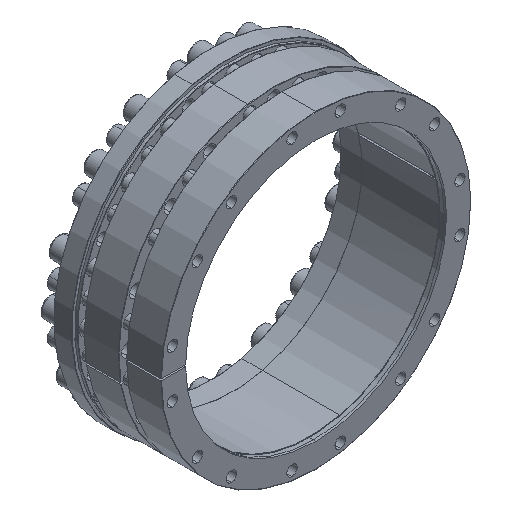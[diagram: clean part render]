
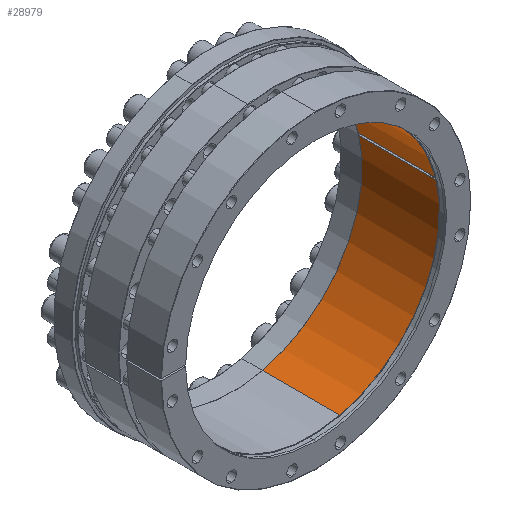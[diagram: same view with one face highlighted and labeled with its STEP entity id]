
A CAD part, isometric view. The second image highlights one B-rep face of the part: STEP entity #28979.
In plain terms, the highlighted cylindrical face has radius 220 mm (diameter 440 mm), a partial arc.
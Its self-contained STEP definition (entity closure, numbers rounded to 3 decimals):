
#466 = CARTESIAN_POINT ( 'NONE',  ( 214.491, 11.004, 48.924 ) ) ;
#1159 = CARTESIAN_POINT ( 'NONE',  ( -51.358, 11.004, 213.921 ) ) ;
#1464 = CIRCLE ( 'NONE', #34496, 220. ) ;
#1935 = EDGE_CURVE ( 'NONE', #6606, #2238, #23847, .T. ) ;
#2023 = EDGE_CURVE ( 'NONE', #2238, #6079, #32669, .T. ) ;
#2238 = VERTEX_POINT ( 'NONE', #25324 ) ;
#2874 = CARTESIAN_POINT ( 'NONE',  ( 214.491, 141.504, 48.924 ) ) ;
#3444 = CARTESIAN_POINT ( 'NONE',  ( 0., 11.004, 0. ) ) ;
#3523 = DIRECTION ( 'NONE',  ( 0.233, 0., -0.972 ) ) ;
#3984 = DIRECTION ( 'NONE',  ( 0., -1., 0. ) ) ;
#4357 = EDGE_CURVE ( 'NONE', #40743, #19009, #17437, .T. ) ;
#6069 = CARTESIAN_POINT ( 'NONE',  ( 0., 11.004, 0. ) ) ;
#6079 = VERTEX_POINT ( 'NONE', #37050 ) ;
#6606 = VERTEX_POINT ( 'NONE', #48731 ) ;
#6693 = AXIS2_PLACEMENT_3D ( 'NONE', #8407, #34714, #12178 ) ;
#7908 = CARTESIAN_POINT ( 'NONE',  ( 213.324, 11.004, 53.786 ) ) ;
#8029 = CARTESIAN_POINT ( 'NONE',  ( 213.324, 141.504, 53.786 ) ) ;
#8407 = CARTESIAN_POINT ( 'NONE',  ( 0., 142.004, 0. ) ) ;
#9505 = VERTEX_POINT ( 'NONE', #2874 ) ;
#9796 = VECTOR ( 'NONE', #42337, 1000. ) ;
#9858 = DIRECTION ( 'NONE',  ( 0.233, 0., -0.972 ) ) ;
#11388 = CIRCLE ( 'NONE', #36785, 220. ) ;
#12178 = DIRECTION ( 'NONE',  ( 0.233, 0., -0.972 ) ) ;
#12633 = VECTOR ( 'NONE', #27477, 1000. ) ;
#14096 = EDGE_CURVE ( 'NONE', #19009, #6079, #1464, .T. ) ;
#14475 = EDGE_CURVE ( 'NONE', #44742, #28362, #11388, .T. ) ;
#14519 = CARTESIAN_POINT ( 'NONE',  ( 214.491, 11.004, 48.924 ) ) ;
#14967 = DIRECTION ( 'NONE',  ( 0., -1., 0. ) ) ;
#15056 = ORIENTED_EDGE ( 'NONE', *, *, #36700, .T. ) ;
#16034 = EDGE_LOOP ( 'NONE', ( #19385, #44226, #16568, #34153, #15056, #33561, #36732, #26580 ) ) ;
#16568 = ORIENTED_EDGE ( 'NONE', *, *, #20086, .T. ) ;
#17437 = LINE ( 'NONE', #7908, #37474 ) ;
#17673 = CIRCLE ( 'NONE', #30542, 220. ) ;
#19009 = VERTEX_POINT ( 'NONE', #46354 ) ;
#19142 = CARTESIAN_POINT ( 'NONE',  ( 0., 141.504, 0. ) ) ;
#19385 = ORIENTED_EDGE ( 'NONE', *, *, #2023, .F. ) ;
#19802 = LINE ( 'NONE', #23577, #9796 ) ;
#20086 = EDGE_CURVE ( 'NONE', #6606, #44742, #19802, .T. ) ;
#22938 = DIRECTION ( 'NONE',  ( -0.233, 0., 0.972 ) ) ;
#23577 = CARTESIAN_POINT ( 'NONE',  ( 51.358, 11.004, -213.921 ) ) ;
#23847 = CIRCLE ( 'NONE', #6693, 220. ) ;
#25050 = EDGE_CURVE ( 'NONE', #9505, #40743, #17673, .T. ) ;
#25324 = CARTESIAN_POINT ( 'NONE',  ( -51.358, 142.004, 213.921 ) ) ;
#26044 = DIRECTION ( 'NONE',  ( 0., -1., 0. ) ) ;
#26276 = LINE ( 'NONE', #466, #46306 ) ;
#26580 = ORIENTED_EDGE ( 'NONE', *, *, #14096, .T. ) ;
#27477 = DIRECTION ( 'NONE',  ( 0., -1., 0. ) ) ;
#28362 = VERTEX_POINT ( 'NONE', #14519 ) ;
#28979 = ADVANCED_FACE ( 'NONE', ( #34174 ), #39459, .F. ) ;
#30075 = DIRECTION ( 'NONE',  ( 0.233, 0., -0.972 ) ) ;
#30542 = AXIS2_PLACEMENT_3D ( 'NONE', #19142, #45486, #22938 ) ;
#32414 = DIRECTION ( 'NONE',  ( 0., -1., 0. ) ) ;
#32669 = LINE ( 'NONE', #1159, #12633 ) ;
#33561 = ORIENTED_EDGE ( 'NONE', *, *, #25050, .T. ) ;
#34027 = DIRECTION ( 'NONE',  ( 0., 1., 0. ) ) ;
#34153 = ORIENTED_EDGE ( 'NONE', *, *, #14475, .T. ) ;
#34174 = FACE_OUTER_BOUND ( 'NONE', #16034, .T. ) ;
#34496 = AXIS2_PLACEMENT_3D ( 'NONE', #48652, #26044, #3523 ) ;
#34714 = DIRECTION ( 'NONE',  ( 0., -1., 0. ) ) ;
#36700 = EDGE_CURVE ( 'NONE', #28362, #9505, #26276, .T. ) ;
#36732 = ORIENTED_EDGE ( 'NONE', *, *, #4357, .T. ) ;
#36785 = AXIS2_PLACEMENT_3D ( 'NONE', #6069, #32414, #9858 ) ;
#37050 = CARTESIAN_POINT ( 'NONE',  ( -51.358, 11.004, 213.921 ) ) ;
#37328 = AXIS2_PLACEMENT_3D ( 'NONE', #3444, #14967, #30075 ) ;
#37474 = VECTOR ( 'NONE', #3984, 1000. ) ;
#39459 = CYLINDRICAL_SURFACE ( 'NONE', #37328, 220. ) ;
#40743 = VERTEX_POINT ( 'NONE', #8029 ) ;
#42337 = DIRECTION ( 'NONE',  ( 0., -1., 0. ) ) ;
#42941 = CARTESIAN_POINT ( 'NONE',  ( 51.358, 11.004, -213.921 ) ) ;
#44226 = ORIENTED_EDGE ( 'NONE', *, *, #1935, .F. ) ;
#44742 = VERTEX_POINT ( 'NONE', #42941 ) ;
#45486 = DIRECTION ( 'NONE',  ( 0., -1., 0. ) ) ;
#46306 = VECTOR ( 'NONE', #34027, 1000. ) ;
#46354 = CARTESIAN_POINT ( 'NONE',  ( 213.324, 11.004, 53.786 ) ) ;
#48652 = CARTESIAN_POINT ( 'NONE',  ( 0., 11.004, 0. ) ) ;
#48731 = CARTESIAN_POINT ( 'NONE',  ( 51.358, 142.004, -213.921 ) ) ;
